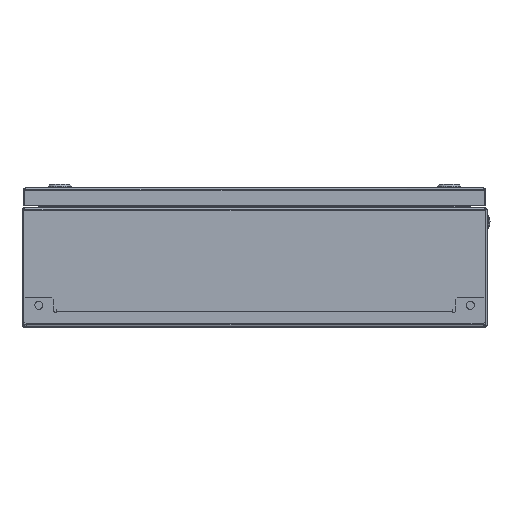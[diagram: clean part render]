
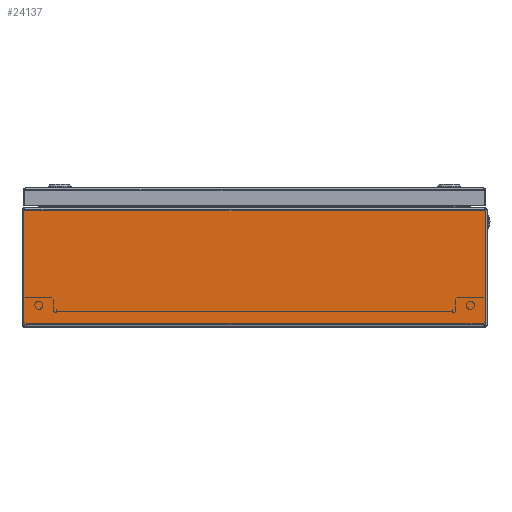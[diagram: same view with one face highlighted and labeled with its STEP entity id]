
A CAD part, left-side view. The second image highlights one B-rep face of the part: STEP entity #24137.
In plain terms, the highlighted planar face has unit normal (-1, 0, 0).
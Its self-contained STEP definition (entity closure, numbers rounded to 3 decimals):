
#4136 = VECTOR ( 'NONE', #65549, 1000. ) ;
#5840 = DIRECTION ( 'NONE',  ( 0., 0., -1. ) ) ;
#10013 = EDGE_LOOP ( 'NONE', ( #50684, #34505, #122763, #21609 ) ) ;
#10733 = VECTOR ( 'NONE', #15870, 1000. ) ;
#11454 = DIRECTION ( 'NONE',  ( 0., 1., 0. ) ) ;
#14354 = VECTOR ( 'NONE', #142689, 1000. ) ;
#15870 = DIRECTION ( 'NONE',  ( 0., 0., -1. ) ) ;
#18649 = VERTEX_POINT ( 'NONE', #34202 ) ;
#19699 = CARTESIAN_POINT ( 'NONE',  ( -300., -3200., 100.6 ) ) ;
#20195 = VERTEX_POINT ( 'NONE', #69041 ) ;
#21609 = ORIENTED_EDGE ( 'NONE', *, *, #46474, .T. ) ;
#24137 = ADVANCED_FACE ( 'NONE', ( #60778 ), #74287, .F. ) ;
#34202 = CARTESIAN_POINT ( 'NONE',  ( -300., -198.623, 100.6 ) ) ;
#34505 = ORIENTED_EDGE ( 'NONE', *, *, #100899, .F. ) ;
#39713 = DIRECTION ( 'NONE',  ( 1., 0., 0. ) ) ;
#46474 = EDGE_CURVE ( 'NONE', #18649, #85116, #72607, .T. ) ;
#50412 = LINE ( 'NONE', #120304, #10733 ) ;
#50684 = ORIENTED_EDGE ( 'NONE', *, *, #133517, .F. ) ;
#51640 = LINE ( 'NONE', #109500, #14354 ) ;
#56222 = CARTESIAN_POINT ( 'NONE',  ( -300., -198.623, 2.4 ) ) ;
#60778 = FACE_OUTER_BOUND ( 'NONE', #10013, .T. ) ;
#65549 = DIRECTION ( 'NONE',  ( 0., 1., 0. ) ) ;
#67421 = CARTESIAN_POINT ( 'NONE',  ( -300., 198.623, 100.6 ) ) ;
#67691 = EDGE_CURVE ( 'NONE', #18649, #131940, #50412, .T. ) ;
#69041 = CARTESIAN_POINT ( 'NONE',  ( -300., 198.623, 2.4 ) ) ;
#69326 = LINE ( 'NONE', #114369, #138033 ) ;
#72607 = LINE ( 'NONE', #19699, #4136 ) ;
#74287 = PLANE ( 'NONE',  #83432 ) ;
#83432 = AXIS2_PLACEMENT_3D ( 'NONE', #96861, #39713, #5840 ) ;
#85116 = VERTEX_POINT ( 'NONE', #67421 ) ;
#96861 = CARTESIAN_POINT ( 'NONE',  ( -300., -3200., 100.6 ) ) ;
#100899 = EDGE_CURVE ( 'NONE', #131940, #20195, #69326, .T. ) ;
#109500 = CARTESIAN_POINT ( 'NONE',  ( -300., 198.623, 100.6 ) ) ;
#114369 = CARTESIAN_POINT ( 'NONE',  ( -300., -3200., 2.4 ) ) ;
#120304 = CARTESIAN_POINT ( 'NONE',  ( -300., -198.623, 100.6 ) ) ;
#122763 = ORIENTED_EDGE ( 'NONE', *, *, #67691, .F. ) ;
#131940 = VERTEX_POINT ( 'NONE', #56222 ) ;
#133517 = EDGE_CURVE ( 'NONE', #20195, #85116, #51640, .T. ) ;
#138033 = VECTOR ( 'NONE', #11454, 1000. ) ;
#142689 = DIRECTION ( 'NONE',  ( 0., 0., 1. ) ) ;
